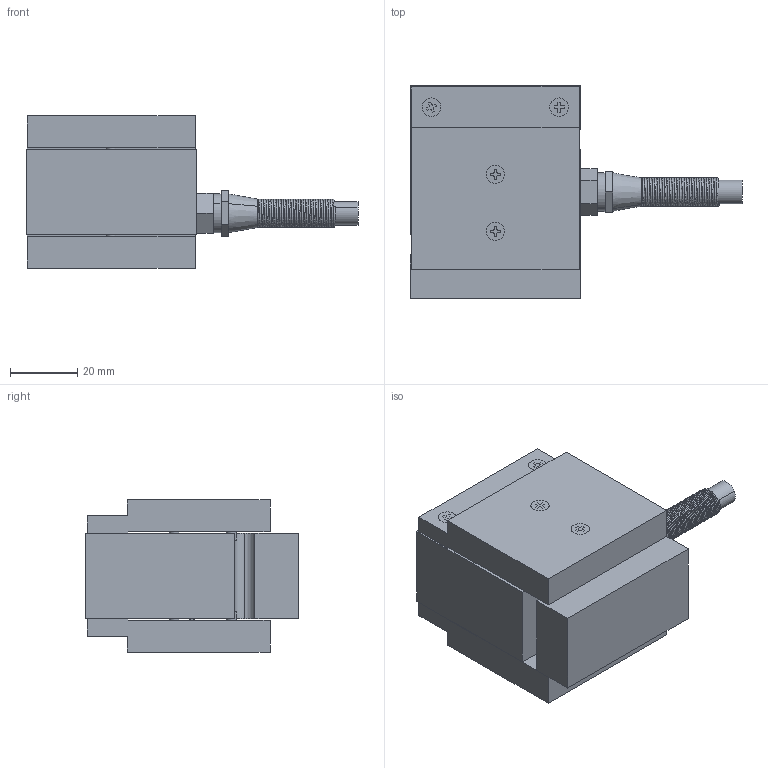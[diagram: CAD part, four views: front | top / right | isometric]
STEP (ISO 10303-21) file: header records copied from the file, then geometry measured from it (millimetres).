
FILE_DESCRIPTION (( 'STEP AP214' ), '1' );
FILE_NAME ('3D_KM1402_2KN.STEP', '2014-01-17T12:52:58', ( '' ), ( '' ), 'SwSTEP 2.0', 'SolidWorks 2012', '' );
FILE_SCHEMA (( 'AUTOMOTIVE_DESIGN' ));
Length unit declared in the file: metre
Products named in the file (1): 3D_KM1402_2KN
Bounding box: 98.9 x 63.5 x 45.4 mm (x, y, z)
Volume: 120572.6 mm3; surface area: 30529 mm2
Topology: 1 solids, 1 shells, 86 faces, 330 edges, 268 vertices
Faces by surface type: plane 67, cylinder 15, bspline 2, cone 2
Entity records: 13215 total; most frequent: CARTESIAN_POINT 9609, ORIENTED_EDGE 660, DIRECTION 586, EDGE_CURVE 330, VERTEX_POINT 268, LINE 236, VECTOR 236, AXIS2_PLACEMENT_3D 175
